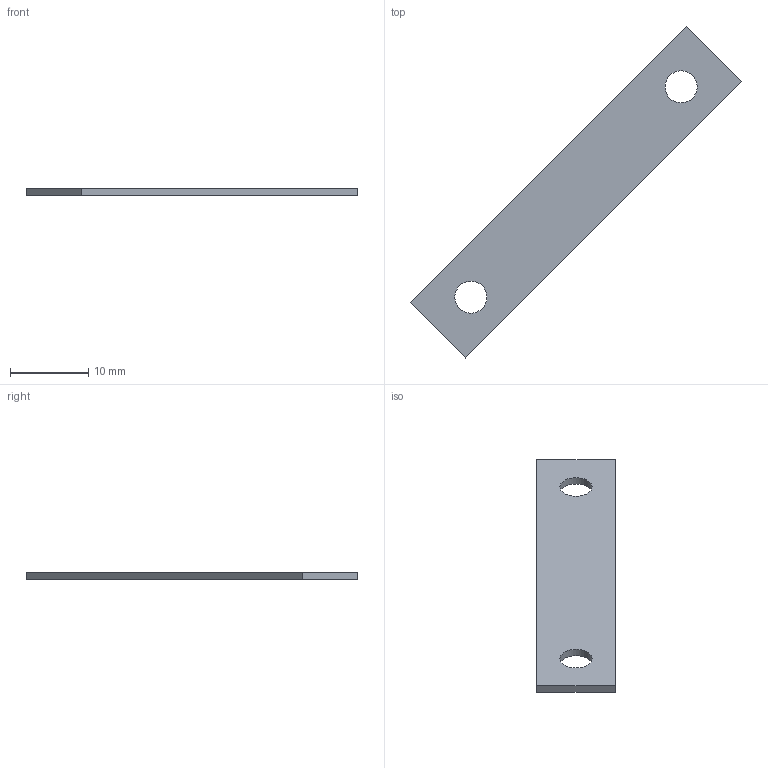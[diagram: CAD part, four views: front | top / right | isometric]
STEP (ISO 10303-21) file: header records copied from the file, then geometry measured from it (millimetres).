
FILE_DESCRIPTION(/* description */ (''),/* implementation_level */ '2;1');
FILE_NAME(/* name */ 'REF_NONPRINT_top_stack_retainer_strip.step',/* time_stamp */ '2026-11-14T21:40:02-08:00',/* author */ (''),/* organization */ (''),/* preprocessor_version */ 'ST-DEVELOPER v20.2',/* originating_system */ 'Autodesk Translation Framework v15.17.0.0',/* authorisation */ '');
FILE_SCHEMA (('AUTOMOTIVE_DESIGN { 1 0 10303 214 3 1 1 }'));
Length unit declared in the file: millimetre
Products named in the file (1): 2026-11-14-21-40-02-837
Bounding box: 42.43 x 42.43 x 1 mm (x, y, z)
Volume: 473.6 mm3; surface area: 1093 mm2
Topology: 1 solids, 1 shells, 8 faces, 18 edges, 12 vertices
Faces by surface type: plane 6, cylinder 2
Full cylindrical faces by diameter (mm): 4.1 x2
Entity records: 267 total; most frequent: DIRECTION 40, CARTESIAN_POINT 39, ORIENTED_EDGE 36, EDGE_CURVE 18, LINE 14, VECTOR 14, AXIS2_PLACEMENT_3D 13, EDGE_LOOP 12
